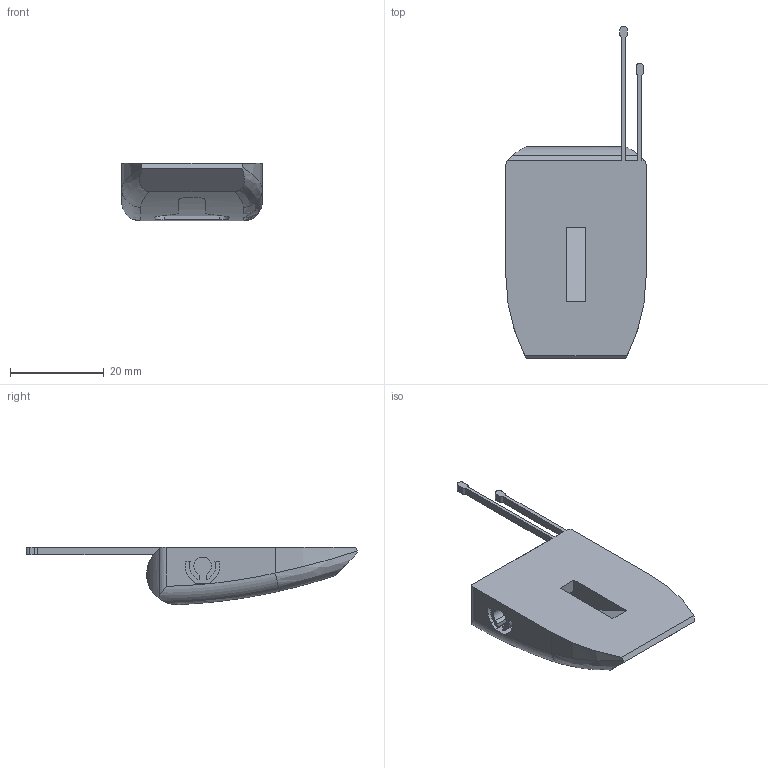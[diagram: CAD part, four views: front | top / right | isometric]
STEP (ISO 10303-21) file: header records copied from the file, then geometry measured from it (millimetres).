
FILE_DESCRIPTION (( 'STEP AP214' ), '1' );
FILE_NAME ('B1-backpack-Standard.step', '2023-08-03T13:47:54', ( '' ), ( '' ), 'SwSTEP 2.0', 'SolidWorks 2020', '' );
FILE_SCHEMA (( 'AUTOMOTIVE_DESIGN' ));
Length unit declared in the file: millimetre
Products named in the file (1): B1-backpack-Standard
Bounding box: 30 x 70.96 x 12.24 mm (x, y, z)
Volume: 11240 mm3; surface area: 4542.9 mm2
Topology: 1 solids, 1 shells, 83 faces, 232 edges, 154 vertices
Faces by surface type: plane 42, cylinder 21, bspline 18, torus 2
Entity records: 4061 total; most frequent: CARTESIAN_POINT 2051, ORIENTED_EDGE 464, DIRECTION 332, EDGE_CURVE 232, VERTEX_POINT 154, VECTOR 124, LINE 124, AXIS2_PLACEMENT_3D 104
